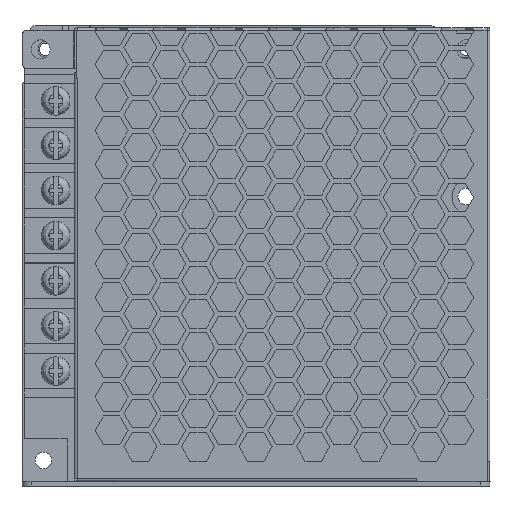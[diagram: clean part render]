
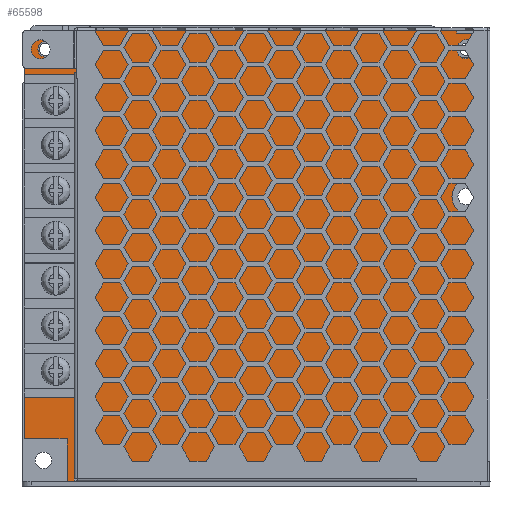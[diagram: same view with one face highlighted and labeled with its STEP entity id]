
A CAD part, top view. The second image highlights one B-rep face of the part: STEP entity #65598.
In plain terms, the highlighted planar face has unit normal (0, 0, 1).
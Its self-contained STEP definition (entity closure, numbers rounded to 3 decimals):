
#65165=CARTESIAN_POINT('',(71.402,45.154,0.0));
#65166=VERTEX_POINT('',#65165);
#65167=CARTESIAN_POINT('',(73.402,45.154,0.0));
#65168=DIRECTION('',(0.0,0.0,-1.0));
#65169=DIRECTION('',(1.0,0.0,0.0));
#65170=AXIS2_PLACEMENT_3D('',#65167,#65168,#65169);
#65171=CIRCLE('',#65170,2.);
#65172=EDGE_CURVE('',#65166,#65166,#65171,.T.);
#65193=CARTESIAN_POINT('',(71.402,131.154,0.0));
#65194=VERTEX_POINT('',#65193);
#65195=CARTESIAN_POINT('',(73.402,131.154,0.0));
#65196=DIRECTION('',(0.0,0.0,-1.0));
#65197=DIRECTION('',(1.0,0.0,0.0));
#65198=AXIS2_PLACEMENT_3D('',#65195,#65196,#65197);
#65199=CIRCLE('',#65198,2.);
#65200=EDGE_CURVE('',#65194,#65194,#65199,.T.);
#65221=CARTESIAN_POINT('',(-16.748,131.154,0.0));
#65222=VERTEX_POINT('',#65221);
#65223=CARTESIAN_POINT('',(-15.098,131.154,0.0));
#65224=DIRECTION('',(0.0,0.0,-1.0));
#65225=DIRECTION('',(1.0,0.0,0.0));
#65226=AXIS2_PLACEMENT_3D('',#65223,#65224,#65225);
#65227=CIRCLE('',#65226,1.65);
#65228=EDGE_CURVE('',#65222,#65222,#65227,.T.);
#65248=CARTESIAN_POINT('',(-19.598,135.154,0.0));
#65249=VERTEX_POINT('',#65248);
#65256=CARTESIAN_POINT('',(78.402,135.154,0.0));
#65257=VERTEX_POINT('',#65256);
#65258=CARTESIAN_POINT('',(78.402,135.154,0.0));
#65259=DIRECTION('',(-1.0,0.0,0.0));
#65260=VECTOR('',#65259,98.);
#65261=LINE('',#65258,#65260);
#65262=EDGE_CURVE('',#65257,#65249,#65261,.T.);
#65286=CARTESIAN_POINT('',(-19.598,49.154,0.0));
#65287=VERTEX_POINT('',#65286);
#65294=CARTESIAN_POINT('',(-19.598,135.154,0.0));
#65295=DIRECTION('',(0.0,-1.0,0.0));
#65296=VECTOR('',#65295,86.);
#65297=LINE('',#65294,#65296);
#65298=EDGE_CURVE('',#65249,#65287,#65297,.T.);
#65317=CARTESIAN_POINT('',(-10.598,49.154,0.0));
#65318=VERTEX_POINT('',#65317);
#65325=CARTESIAN_POINT('',(-19.598,49.154,0.0));
#65326=DIRECTION('',(1.0,0.0,0.0));
#65327=VECTOR('',#65326,9.);
#65328=LINE('',#65325,#65327);
#65329=EDGE_CURVE('',#65287,#65318,#65328,.T.);
#65348=CARTESIAN_POINT('',(-10.598,40.154,0.0));
#65349=VERTEX_POINT('',#65348);
#65356=CARTESIAN_POINT('',(-10.598,49.154,0.0));
#65357=DIRECTION('',(0.0,-1.0,0.0));
#65358=VECTOR('',#65357,9.);
#65359=LINE('',#65356,#65358);
#65360=EDGE_CURVE('',#65318,#65349,#65359,.T.);
#65379=CARTESIAN_POINT('',(78.402,40.154,0.0));
#65380=VERTEX_POINT('',#65379);
#65387=CARTESIAN_POINT('',(-10.598,40.154,0.0));
#65388=DIRECTION('',(1.0,0.0,0.0));
#65389=VECTOR('',#65388,89.);
#65390=LINE('',#65387,#65389);
#65391=EDGE_CURVE('',#65349,#65380,#65390,.T.);
#65410=CARTESIAN_POINT('',(78.402,96.154,0.0));
#65411=VERTEX_POINT('',#65410);
#65418=CARTESIAN_POINT('',(78.402,40.154,0.0));
#65419=DIRECTION('',(0.0,1.0,0.0));
#65420=VECTOR('',#65419,56.);
#65421=LINE('',#65418,#65420);
#65422=EDGE_CURVE('',#65380,#65411,#65421,.T.);
#65441=CARTESIAN_POINT('',(74.402,96.154,0.0));
#65442=VERTEX_POINT('',#65441);
#65449=CARTESIAN_POINT('',(78.402,96.154,0.0));
#65450=DIRECTION('',(-1.0,0.0,0.0));
#65451=VECTOR('',#65450,4.);
#65452=LINE('',#65449,#65451);
#65453=EDGE_CURVE('',#65411,#65442,#65452,.T.);
#65473=CARTESIAN_POINT('',(74.402,104.154,0.0));
#65474=VERTEX_POINT('',#65473);
#65481=CARTESIAN_POINT('',(74.402,100.154,0.0));
#65482=DIRECTION('',(0.0,0.0,-1.0));
#65483=DIRECTION('',(0.,-1.0,0.0));
#65484=AXIS2_PLACEMENT_3D('',#65481,#65482,#65483);
#65485=CIRCLE('',#65484,4.);
#65486=EDGE_CURVE('',#65442,#65474,#65485,.T.);
#65505=CARTESIAN_POINT('',(78.402,104.154,0.0));
#65506=VERTEX_POINT('',#65505);
#65513=CARTESIAN_POINT('',(74.402,104.154,0.0));
#65514=DIRECTION('',(1.0,0.0,0.0));
#65515=VECTOR('',#65514,4.);
#65516=LINE('',#65513,#65515);
#65517=EDGE_CURVE('',#65474,#65506,#65516,.T.);
#65535=CARTESIAN_POINT('',(78.402,104.154,0.0));
#65536=DIRECTION('',(0.0,1.0,0.0));
#65537=VECTOR('',#65536,31.);
#65538=LINE('',#65535,#65537);
#65539=EDGE_CURVE('',#65506,#65257,#65538,.T.);
#65572=CARTESIAN_POINT('',(30.911,88.251,0.0));
#65573=DIRECTION('',(0.0,0.0,1.0));
#65574=DIRECTION('',(1.0,0.0,0.0));
#65575=AXIS2_PLACEMENT_3D('',#65572,#65573,#65574);
#65576=PLANE('',#65575);
#65577=ORIENTED_EDGE('',*,*,#65262,.T.);
#65578=ORIENTED_EDGE('',*,*,#65298,.T.);
#65579=ORIENTED_EDGE('',*,*,#65329,.T.);
#65580=ORIENTED_EDGE('',*,*,#65360,.T.);
#65581=ORIENTED_EDGE('',*,*,#65391,.T.);
#65582=ORIENTED_EDGE('',*,*,#65422,.T.);
#65583=ORIENTED_EDGE('',*,*,#65453,.T.);
#65584=ORIENTED_EDGE('',*,*,#65486,.T.);
#65585=ORIENTED_EDGE('',*,*,#65517,.T.);
#65586=ORIENTED_EDGE('',*,*,#65539,.T.);
#65587=EDGE_LOOP('',(#65577,#65578,#65579,#65580,#65581,#65582,#65583,#65584,#65585,#65586));
#65588=FACE_OUTER_BOUND('',#65587,.T.);
#65589=ORIENTED_EDGE('',*,*,#65172,.T.);
#65590=EDGE_LOOP('',(#65589));
#65591=FACE_BOUND('',#65590,.T.);
#65592=ORIENTED_EDGE('',*,*,#65200,.T.);
#65593=EDGE_LOOP('',(#65592));
#65594=FACE_BOUND('',#65593,.T.);
#65595=ORIENTED_EDGE('',*,*,#65228,.T.);
#65596=EDGE_LOOP('',(#65595));
#65597=FACE_BOUND('',#65596,.T.);
#65598=ADVANCED_FACE('',(#65588,#65591,#65594,#65597),#65576,.T.);
